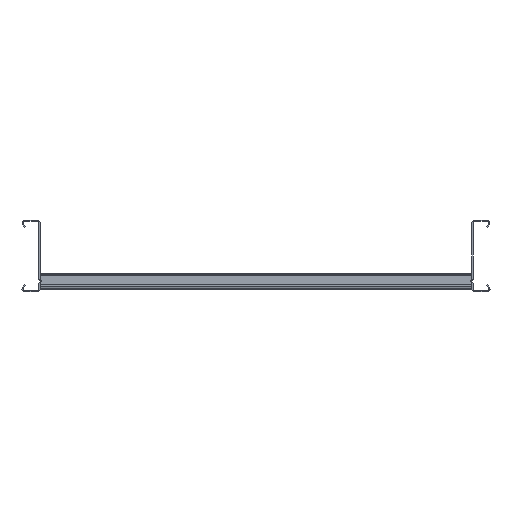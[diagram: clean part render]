
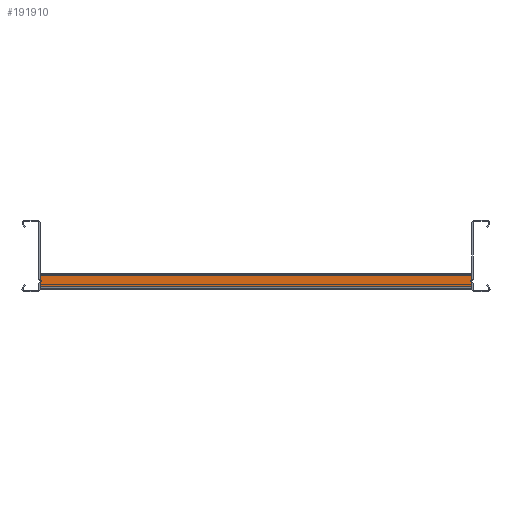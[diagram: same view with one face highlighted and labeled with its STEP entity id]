
A CAD part, left-side view. The second image highlights one B-rep face of the part: STEP entity #191910.
In plain terms, the highlighted planar face has unit normal (-1, 0, 0) as drawn and (1, 0, 0) by its records, which use the part's own axes.
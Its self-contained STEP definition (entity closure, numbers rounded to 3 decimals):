
#191520=CARTESIAN_POINT('',(39.75,900.,0.));
#191530=DIRECTION('',(1.,0.,0.));
#191540=DIRECTION('',(0.,-1.,0.));
#191550=AXIS2_PLACEMENT_3D('',#191520,#191530,#191540);
#191560=PLANE('',#191550);
#191570=CARTESIAN_POINT('',(39.75,0.,0.));
#191580=DIRECTION('',(0.,-1.,0.));
#191590=VECTOR('',#191580,1.);
#191600=LINE('',#191570,#191590);
#191610=CARTESIAN_POINT('',(39.75,897.,0.));
#191620=VERTEX_POINT('',#191610);
#191630=CARTESIAN_POINT('',(39.75,881.,0.));
#191640=VERTEX_POINT('',#191630);
#191650=EDGE_CURVE('',#191620,#191640,#191600,.T.);
#191660=ORIENTED_EDGE('',*,*,#191650,.F.);
#191670=CARTESIAN_POINT('',(39.75,881.,0.));
#191680=DIRECTION('',(0.,0.,1.));
#191690=VECTOR('',#191680,1.);
#191700=LINE('',#191670,#191690);
#191710=CARTESIAN_POINT('',(39.75,881.,600.));
#191720=VERTEX_POINT('',#191710);
#191730=EDGE_CURVE('',#191640,#191720,#191700,.T.);
#191740=ORIENTED_EDGE('',*,*,#191730,.F.);
#191750=CARTESIAN_POINT('',(39.75,0.,600.));
#191760=DIRECTION('',(0.,1.,0.));
#191770=VECTOR('',#191760,1.);
#191780=LINE('',#191750,#191770);
#191790=CARTESIAN_POINT('',(39.75,897.,600.));
#191800=VERTEX_POINT('',#191790);
#191810=EDGE_CURVE('',#191720,#191800,#191780,.T.);
#191820=ORIENTED_EDGE('',*,*,#191810,.F.);
#191830=CARTESIAN_POINT('',(39.75,897.,0.));
#191840=DIRECTION('',(0.,0.,1.));
#191850=VECTOR('',#191840,1.);
#191860=LINE('',#191830,#191850);
#191870=EDGE_CURVE('',#191620,#191800,#191860,.T.);
#191880=ORIENTED_EDGE('',*,*,#191870,.T.);
#191890=EDGE_LOOP('',(#191880,#191820,#191740,#191660));
#191900=FACE_OUTER_BOUND('',#191890,.T.);
#191910=ADVANCED_FACE('',(#191900),#191560,.T.);
